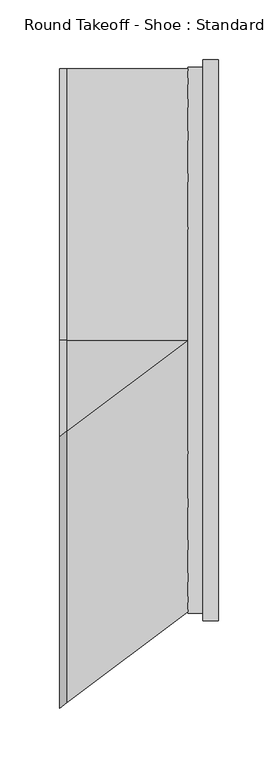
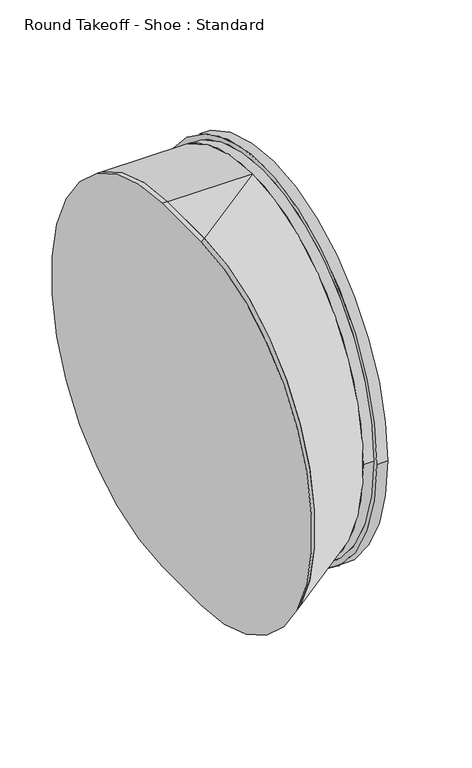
"""IFC4 building model written with IfcOpenShell, lengths in millimetres: duct fitting geometry, Round Takeoff - Shoe : Standard."""

from ifc_helpers import new_model, si_unit, point, frame, origin, place, context, project, spatial, circle_curve, trimmed, source, transform, mapped, element, save
from ifc_brep_helpers import plane_surface, cylinder_surface, extruded_surface, advanced_brep


def round_takeoff_shoe_standard_8a2cc7e4(model_context):
    return source(origin(), model_context, "Body", "AdvancedBrep", [
        advanced_brep(
        [(127.0, -234.95, 0.0), (127.0, 234.95, 0.0), (101.6, -228.6, 0.0), (101.6, 228.6, 0.0), (114.0743747, 228.6, 0.0), (114.0743747, -228.6, 0.0), (114.0743747, -234.95, 0.0), (114.0743747, 234.95, 0.0)],
        [
            (0, 1, circle_curve(frame((127.0, 0.0, 0.0), z_axis=(1.0, 0.0, 0.0), x_axis=(0.0, 1.0, 0.0)), 234.95)),
            (1, 0, circle_curve(frame((127.0, 0.0, 0.0), z_axis=(1.0, 0.0, 0.0), x_axis=(0.0, 1.0, 0.0)), 234.95)),
            (2, 3, circle_curve(frame((101.6, 0.0, 0.0), z_axis=(-1.0, 0.0, 0.0), x_axis=(0.0, 1.0, 0.0)), 228.6)),
            (3, 2, circle_curve(frame((101.6, 0.0, 0.0), z_axis=(-1.0, 0.0, 0.0), x_axis=(0.0, 1.0, 0.0)), 228.6)),
            (3, 4),
            (4, 5, circle_curve(frame((114.0743747, 0.0, 0.0), z_axis=(-1.0, 0.0, 0.0), x_axis=(0.0, 1.0, 0.0)), 228.6)),
            (5, 2),
            (5, 4, circle_curve(frame((114.0743747, 0.0, 0.0), z_axis=(-1.0, 0.0, 0.0), x_axis=(0.0, 1.0, 0.0)), 228.6)),
            (6, 7, circle_curve(frame((114.0743747, 0.0, 0.0), z_axis=(-1.0, 0.0, 0.0), x_axis=(0.0, 1.0, 0.0)), 234.95)),
            (7, 6, circle_curve(frame((114.0743747, 0.0, 0.0), z_axis=(-1.0, 0.0, 0.0), x_axis=(0.0, 1.0, 0.0)), 234.95)),
            (0, 6),
            (7, 1),
        ],
        [
            plane_surface(frame((127.0, 228.6, 0.0), z_axis=(1.0, 0.0, 0.0), x_axis=(0.0, 0.0, 1.0))),
            plane_surface(frame((101.6, 228.6, 0.0), z_axis=(-1.0, 0.0, 0.0), x_axis=(0.0, 0.0, -1.0))),
            cylinder_surface(frame((101.6, 0.0, 0.0), z_axis=(1.0, 0.0, 0.0), x_axis=(0.0, 1.0, 0.0)), 228.6),
            plane_surface(frame((114.0743747, 234.95, 0.0), z_axis=(-1.0, 0.0, 0.0), x_axis=(0.0, 0.0, -1.0))),
            cylinder_surface(frame((114.0743747, 0.0, 0.0), z_axis=(1.0, 0.0, 0.0), x_axis=(0.0, 1.0, 0.0)), 234.95),
        ],
        [
            (0, [[1, 2]]),
            (1, [[3, 4]]),
            (2, [[-4, 5, 6, 7]]),
            (2, [[-3, -7, 8, -5]]),
            (3, [[9, 10], [-6, -8]]),
            (4, [[-1, 11, -10, 12]]),
            (4, [[-2, -12, -9, -11]]),
        ],
    ),
        advanced_brep(
        [(-6.096, 0.0, -228.6), (-6.096, -80.772, -228.6), (-6.096, -80.772, 228.6), (-6.096, 0.0, 228.6), (0.0, 0.0, -228.6), (0.0, 0.0, 228.6), (0.0, -76.2, 228.6), (0.0, -76.2, -228.6)],
        [
            (0, 1),
            (1, 2, circle_curve(frame((-6.096, -80.772, 0.0), z_axis=(-1.0, 0.0, 0.0), x_axis=(0.0, 1.0, 0.0)), 228.6)),
            (2, 3),
            (3, 0, circle_curve(frame((-6.096, 0.0, 0.0), z_axis=(-1.0, 0.0, 0.0), x_axis=(0.0, 1.0, 0.0)), 228.6)),
            (4, 5, circle_curve(frame((0.0, 0.0, 0.0), z_axis=(1.0, 0.0, 0.0), x_axis=(0.0, 1.0, 0.0)), 228.6)),
            (5, 6),
            (6, 7, circle_curve(frame((0.0, -76.2, 0.0), z_axis=(1.0, 0.0, 0.0), x_axis=(0.0, 1.0, 0.0)), 228.6)),
            (7, 4),
            (7, 1),
            (0, 4),
            (6, 2),
            (5, 3),
        ],
        [
            plane_surface(frame((-6.096, -40.386, 0.0), z_axis=(-1.0, 0.0, 0.0), x_axis=(0.0, 1.0, 0.0))),
            plane_surface(frame((0.0, -38.1, 0.0), z_axis=(1.0, 0.0, 0.0), x_axis=(0.0, 1.0, 0.0))),
            plane_surface(frame((0.0, -38.1, -228.6), z_axis=(0.0, 0.0, -1.0), x_axis=(0.0, -1.0, 0.0))),
            extruded_surface(trimmed(circle_curve(frame((0.0, -76.2, 0.0), z_axis=(-1.0, 0.0, 0.0), x_axis=(0.0, 1.0, 0.0)), 228.6), [point((0.0, -76.2, -228.6))], [point((0.0, -76.2, 228.6))], True, "CARTESIAN"), (-6.096, -4.572000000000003, 0.0), 7.620000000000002),
            plane_surface(frame((0.0, -38.1, 228.6), z_axis=(0.0, 0.0, 1.0), x_axis=(0.0, 1.0, 0.0))),
            cylinder_surface(frame((0.0, 0.0, 0.0), z_axis=(-1.0, 0.0, 0.0), x_axis=(0.0, 1.0, 0.0)), 228.6),
        ],
        [
            (0, [[1, 2, 3, 4]]),
            (1, [[5, 6, 7, 8]]),
            (2, [[-8, 9, -1, 10]]),
            (3, [[-7, 11, -2, -9]]),
            (4, [[-6, 12, -3, -11]]),
            (5, [[-5, -10, -4, -12]]),
        ],
    ),
        advanced_brep(
        [(101.6, 0.0, -228.6), (101.6, 0.0, 228.6), (0.0, 0.0, -228.6), (0.0, -76.2, -228.6), (0.0, -76.2, 228.6), (0.0, 0.0, 228.6)],
        [
            (0, 1, circle_curve(frame((101.6, 0.0, 0.0), z_axis=(1.0, 0.0, 0.0), x_axis=(0.0, 1.0, 0.0)), 228.6)),
            (1, 0, circle_curve(frame((101.6, 0.0, 0.0), z_axis=(1.0, 0.0, 0.0), x_axis=(0.0, 1.0, 0.0)), 228.6)),
            (2, 3),
            (3, 4, circle_curve(frame((0.0, -76.2, 0.0), z_axis=(-1.0, 0.0, 0.0), x_axis=(0.0, 1.0, 0.0)), 228.6)),
            (4, 5),
            (5, 2, circle_curve(frame((0.0, 0.0, 0.0), z_axis=(-1.0, 0.0, 0.0), x_axis=(0.0, 1.0, 0.0)), 228.6)),
            (5, 1),
            (0, 2),
            (4, 1),
            (3, 0),
        ],
        [
            plane_surface(frame((101.6, 0.0, 0.0), z_axis=(1.0, 0.0, 0.0), x_axis=(0.0, 1.0, 0.0))),
            plane_surface(frame((0.0, -38.1, 0.0), z_axis=(-1.0, 0.0, 0.0), x_axis=(0.0, 1.0, 0.0))),
            cylinder_surface(frame((0.0, 0.0, 0.0), z_axis=(1.0, 0.0, 0.0), x_axis=(0.0, 1.0, 0.0)), 228.6),
            plane_surface(frame((0.0, -38.1, 228.6), z_axis=(0.0, 0.0, 1.0), x_axis=(0.0, -1.0, 0.0))),
            extruded_surface(trimmed(circle_curve(frame((0.0, -76.2, 0.0), z_axis=(1.0, 0.0, 0.0), x_axis=(0.0, 1.0, 0.0)), 228.6), [point((0.0, -76.2, 228.6))], [point((0.0, -76.2, -228.6))], True, "CARTESIAN"), (101.6, 76.2, 0.0), 127.0),
            plane_surface(frame((0.0, -38.1, -228.6), z_axis=(0.0, 0.0, -1.0), x_axis=(0.0, 1.0, 0.0))),
        ],
        [
            (0, [[1, 2]]),
            (1, [[3, 4, 5, 6]]),
            (2, [[-6, 7, -1, 8]]),
            (3, [[-5, 9, -7]]),
            (4, [[-4, 10, -2, -9]]),
            (5, [[-3, -8, -10]]),
        ],
    ),
    ])


if __name__ == "__main__":
    model = new_model("IFC4")
    model_context = context("Model", 3, world=origin())
    ifc_project = project(units=[si_unit("LENGTHUNIT", "METRE", prefix="MILLI")], contexts=[model_context])
    site = spatial("IfcSite", under=ifc_project)
    building = spatial("IfcBuilding", under=site)
    placement = place(None, origin())
    round_takeoff_shoe_standard_shape = round_takeoff_shoe_standard_8a2cc7e4(model_context)
    element("IfcDuctFitting", 1, ObjectType="Round Takeoff - Shoe : Standard", at=placement, inside=building, context=model_context, shape_type="MappedRepresentation", body=[
        mapped(round_takeoff_shoe_standard_shape, transform((0.0, 0.0, 0.0), x_axis=(1.0, 0.0, 0.0), y_axis=(0.0, 1.0, 0.0), z_axis=(0.0, 0.0, 1.0))),
    ])
    save(model, "model.ifc")
